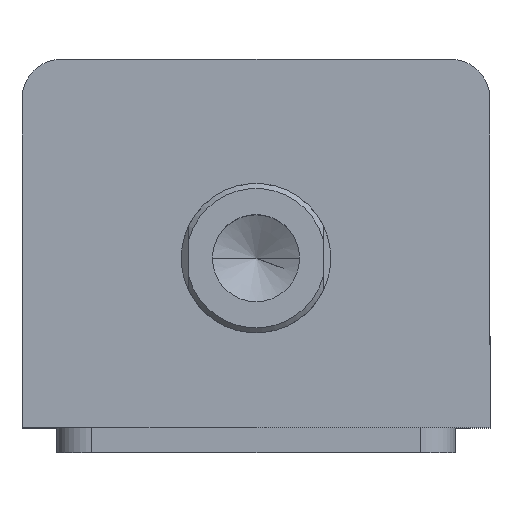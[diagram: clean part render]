
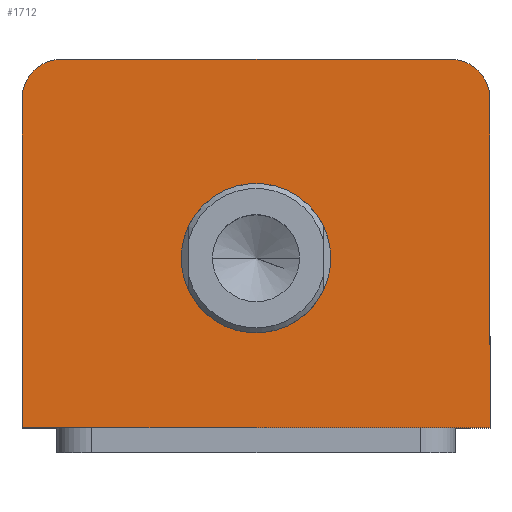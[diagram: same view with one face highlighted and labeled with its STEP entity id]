
A CAD part, top view. The second image highlights one B-rep face of the part: STEP entity #1712.
In plain terms, the highlighted planar face has unit normal (0, 0, 1).
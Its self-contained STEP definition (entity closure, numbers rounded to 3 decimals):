
#3 = EDGE_CURVE ( 'NONE', #2344, #2499, #2351, .T. ) ;
#20 = EDGE_CURVE ( 'NONE', #2499, #2503, #2435, .T. ) ;
#30 = EDGE_CURVE ( 'NONE', #2363, #2412, #2281, .T. ) ;
#36 = EDGE_CURVE ( 'NONE', #2749, #2344, #2466, .T. ) ;
#46 = CARTESIAN_POINT ( 'NONE',  ( 47., 37., 90. ) ) ;
#48 = DIRECTION ( 'NONE',  ( 0., -1., 0. ) ) ;
#59 = CARTESIAN_POINT ( 'NONE',  ( -47., 37., 90. ) ) ;
#62 = DIRECTION ( 'NONE',  ( 1., 0., 0. ) ) ;
#66 = DIRECTION ( 'NONE',  ( 1., 0., 0. ) ) ;
#67 = DIRECTION ( 'NONE',  ( 0., 0., 1. ) ) ;
#68 = CARTESIAN_POINT ( 'NONE',  ( 0., -3., 90. ) ) ;
#110 = CARTESIAN_POINT ( 'NONE',  ( -39., 29., 90. ) ) ;
#129 = DIRECTION ( 'NONE',  ( 0., 1., 0. ) ) ;
#147 = CARTESIAN_POINT ( 'NONE',  ( 39., 29., 90. ) ) ;
#148 = DIRECTION ( 'NONE',  ( 0., 0., 1. ) ) ;
#149 = DIRECTION ( 'NONE',  ( 1., 0., 0. ) ) ;
#169 = CARTESIAN_POINT ( 'NONE',  ( -47., -37., 90. ) ) ;
#171 = DIRECTION ( 'NONE',  ( 1., 0., 0. ) ) ;
#175 = DIRECTION ( 'NONE',  ( 0., 0., 1. ) ) ;
#221 = CARTESIAN_POINT ( 'NONE',  ( 15., -3., 90. ) ) ;
#229 = CARTESIAN_POINT ( 'NONE',  ( 47., -37., 90. ) ) ;
#243 = CARTESIAN_POINT ( 'NONE',  ( -39., 37., 90. ) ) ;
#282 = CARTESIAN_POINT ( 'NONE',  ( -47., 29., 90. ) ) ;
#304 = CARTESIAN_POINT ( 'NONE',  ( 47., 29., 90. ) ) ;
#308 = CARTESIAN_POINT ( 'NONE',  ( -47., -37., 90. ) ) ;
#309 = CARTESIAN_POINT ( 'NONE',  ( -15., -3., 90. ) ) ;
#311 = CARTESIAN_POINT ( 'NONE',  ( 39., 37., 90. ) ) ;
#940 = FACE_OUTER_BOUND ( 'NONE', #2777, .T. ) ;
#942 = FACE_BOUND ( 'NONE', #1338, .T. ) ;
#1059 = ORIENTED_EDGE ( 'NONE', *, *, #1512, .F. ) ;
#1060 = ORIENTED_EDGE ( 'NONE', *, *, #1583, .F. ) ;
#1061 = ORIENTED_EDGE ( 'NONE', *, *, #1551, .T. ) ;
#1062 = ORIENTED_EDGE ( 'NONE', *, *, #30, .T. ) ;
#1063 = ORIENTED_EDGE ( 'NONE', *, *, #1503, .T. ) ;
#1064 = ORIENTED_EDGE ( 'NONE', *, *, #36, .T. ) ;
#1065 = ORIENTED_EDGE ( 'NONE', *, *, #3, .T. ) ;
#1067 = DIRECTION ( 'NONE',  ( 1., 0., 0. ) ) ;
#1070 = DIRECTION ( 'NONE',  ( 0., 0., 1. ) ) ;
#1074 = CARTESIAN_POINT ( 'NONE',  ( 0., 0., 90. ) ) ;
#1076 = PLANE ( 'NONE',  #1274 ) ;
#1081 = ORIENTED_EDGE ( 'NONE', *, *, #20, .T. ) ;
#1274 = AXIS2_PLACEMENT_3D ( 'NONE', #1074, #1070, #1067 ) ;
#1338 = EDGE_LOOP ( 'NONE', ( #1059, #1060 ) ) ;
#1503 = EDGE_CURVE ( 'NONE', #2412, #2749, #2494, .T. ) ;
#1512 = EDGE_CURVE ( 'NONE', #2332, #2502, #2341, .T. ) ;
#1551 = EDGE_CURVE ( 'NONE', #2503, #2363, #2094, .T. ) ;
#1583 = EDGE_CURVE ( 'NONE', #2502, #2332, #2098, .T. ) ;
#1712 = ADVANCED_FACE ( 'NONE', ( #942, #940 ), #1076, .T. ) ;
#1790 = DIRECTION ( 'NONE',  ( 1., 0., 0. ) ) ;
#1794 = DIRECTION ( 'NONE',  ( 0., 0., 1. ) ) ;
#1795 = CARTESIAN_POINT ( 'NONE',  ( 0., -3., 90. ) ) ;
#2094 = LINE ( 'NONE', #2598, #2160 ) ;
#2098 = CIRCLE ( 'NONE', #2997, 15. ) ;
#2160 = VECTOR ( 'NONE', #2597, 1000. ) ;
#2281 = CIRCLE ( 'NONE', #2965, 8. ) ;
#2332 = VERTEX_POINT ( 'NONE', #221 ) ;
#2341 = CIRCLE ( 'NONE', #2970, 15. ) ;
#2344 = VERTEX_POINT ( 'NONE', #229 ) ;
#2351 = LINE ( 'NONE', #46, #2519 ) ;
#2363 = VERTEX_POINT ( 'NONE', #243 ) ;
#2412 = VERTEX_POINT ( 'NONE', #282 ) ;
#2435 = CIRCLE ( 'NONE', #2957, 8. ) ;
#2466 = LINE ( 'NONE', #169, #2511 ) ;
#2467 = VECTOR ( 'NONE', #48, 1000. ) ;
#2494 = LINE ( 'NONE', #59, #2467 ) ;
#2499 = VERTEX_POINT ( 'NONE', #304 ) ;
#2502 = VERTEX_POINT ( 'NONE', #309 ) ;
#2503 = VERTEX_POINT ( 'NONE', #311 ) ;
#2511 = VECTOR ( 'NONE', #62, 1000. ) ;
#2519 = VECTOR ( 'NONE', #129, 1000. ) ;
#2597 = DIRECTION ( 'NONE',  ( -1., 0., 0. ) ) ;
#2598 = CARTESIAN_POINT ( 'NONE',  ( -47., 37., 90. ) ) ;
#2749 = VERTEX_POINT ( 'NONE', #308 ) ;
#2777 = EDGE_LOOP ( 'NONE', ( #1061, #1062, #1063, #1064, #1065, #1081 ) ) ;
#2957 = AXIS2_PLACEMENT_3D ( 'NONE', #147, #148, #149 ) ;
#2965 = AXIS2_PLACEMENT_3D ( 'NONE', #110, #175, #171 ) ;
#2970 = AXIS2_PLACEMENT_3D ( 'NONE', #68, #67, #66 ) ;
#2997 = AXIS2_PLACEMENT_3D ( 'NONE', #1795, #1794, #1790 ) ;
